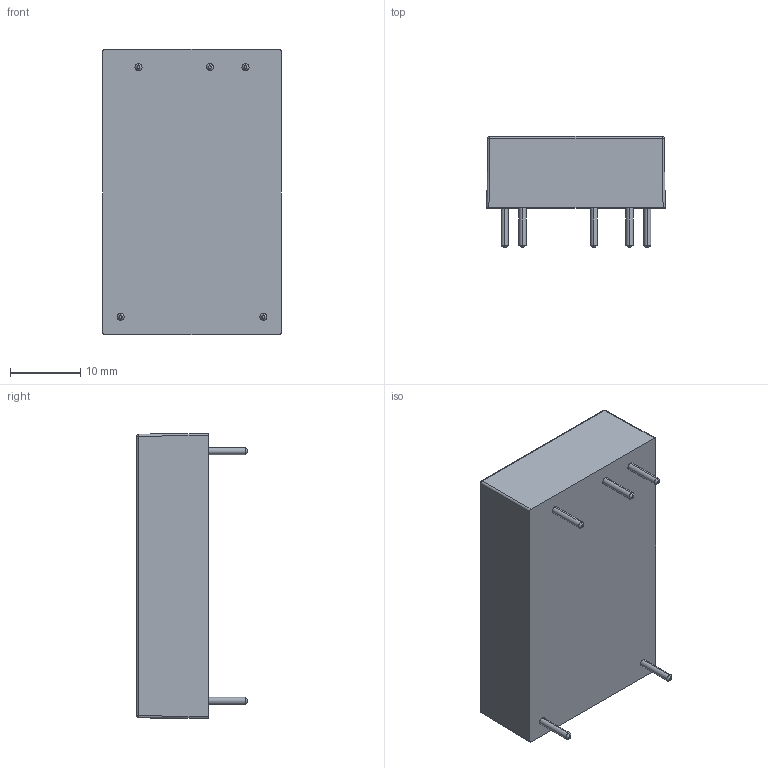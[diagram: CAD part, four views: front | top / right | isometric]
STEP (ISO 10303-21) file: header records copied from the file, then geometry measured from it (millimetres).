
FILE_DESCRIPTION (( 'STEP AP214' ), '1' );
FILE_NAME ('TFI 300.STEP', '2019-02-15T00:37:01', ( 'user' ), ( '' ), 'SwSTEP 2.0', 'SolidWorks 2016', '' );
FILE_SCHEMA (( 'AUTOMOTIVE_DESIGN' ));
Length unit declared in the file: millimetre
Products named in the file (1): TFI 300
Bounding box: 25.4 x 15.8 x 40.6 mm (x, y, z)
Volume: 10477 mm3; surface area: 3456.3 mm2
Topology: 1 solids, 1 shells, 43 faces, 90 edges, 50 vertices
Faces by surface type: cylinder 18, plane 11, cone 10, sphere 4
Entity records: 1613 total; most frequent: DIRECTION 212, CARTESIAN_POINT 192, ORIENTED_EDGE 172, EDGE_CURVE 86, AXIS2_PLACEMENT_3D 86, VERTEX_POINT 50, EDGE_LOOP 48, UNCERTAINTY_MEASURE_WITH_UNIT 46
